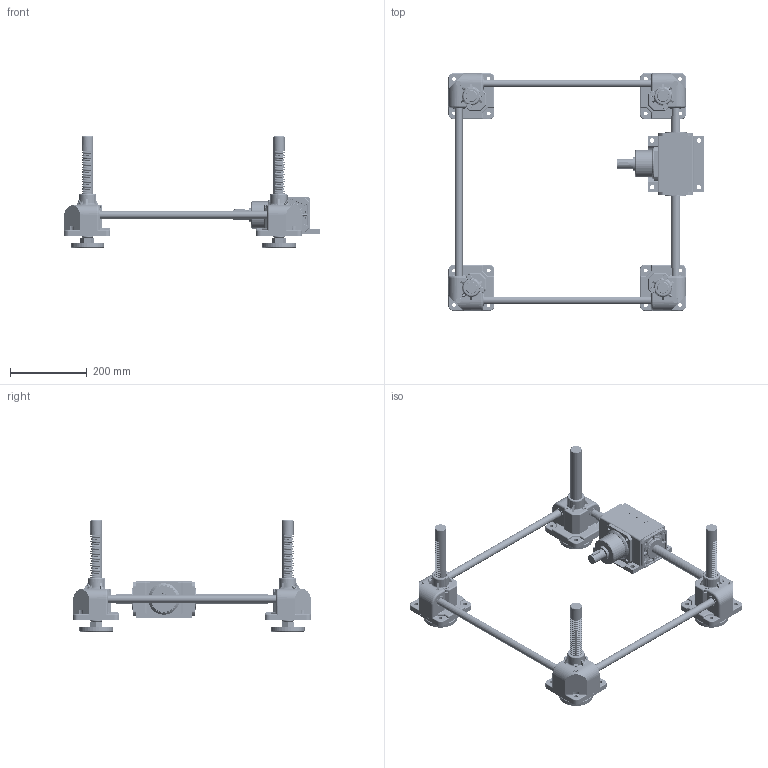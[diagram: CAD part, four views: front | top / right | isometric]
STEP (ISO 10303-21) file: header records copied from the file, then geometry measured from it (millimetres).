
FILE_DESCRIPTION(('STEP AP203'),'1');
FILE_NAME('SPB900FU-500x500-250-150ST.stp','2022-06-15T07:42:47',(' '),(' '),'Spatial InterOp 3D',' ',' ');
FILE_SCHEMA(('CONFIG_CONTROL_DESIGN'));
Length unit declared in the file: millimetre
Products named in the file (195): SPB900FU-500x500-250-150ST; ASSEM1; Flange.1-Part; Flange.1; Joint.1; Nut.1; Flange.2-Part; Flange.2; Joint.2; Nut.2; Flange.3-Part; Flange.3; Joint.3; Nut.3; Flange.4-Part; Flange.4; Joint.4; Nut.4; Body.1-Part; Bolt.12; Nipple; Gear Box.1(Upper); Body_stand by; Gear Box.1(Lower); RJ05-4SCJ-610X600-100ST_CAP; LABEL-B.1; ___; 파트18; __ ; Body.2-Part; Gear Box.2(Upper); Gear Box.2(Lower); Body.3-Part; Gear Box.3(Upper); Gear Box.3(Lower); Body.4-Part; Gear Box.4(Upper); Gear Box.4(Lower); Shaft; Shaft.1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
Assembly tree (195 placements, depth 6):
  SPB900FU-500x500-250-150ST
    ASSEM1
    (unnamed)
    (unnamed)
    (unnamed)
    Flange.1-Part
      Flange.1
      Joint.1
      Nut.1
    Flange.2-Part
      Flange.2
      Joint.2
      Nut.2
    Flange.3-Part
      Flange.3
      Joint.3
      Nut.3
    Flange.4-Part
      Flange.4
      Joint.4
      Nut.4
    Body.1-Part
      Bolt.12
      Bolt.12
      Bolt.12
      Nipple
      Gear Box.1(Upper)
        Body_stand by
        Body_stand by
        Body_stand by
        Body_stand by
      Gear Box.1(Lower)
        Body_stand by
        Body_stand by
        Body_stand by
        Body_stand by
      __ 
        ___
          RJ05-4SCJ-610X600-100ST_CAP
            LABEL-B.1
          파트18
    Body.2-Part
      Bolt.12
      Bolt.12
      Bolt.12
      Nipple
      Gear Box.2(Upper)
        Body_stand by
        Body_stand by
        Body_stand by
        Body_stand by
      Gear Box.2(Lower)
        Body_stand by
        Body_stand by
        Body_stand by
        Body_stand by
      __ 
        ___
          RJ05-4SCJ-610X600-100ST_CAP
            LABEL-B.1
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Bounding box: 666.41 x 620.32 x 290 mm (x, y, z)
Volume: 2752353.5 mm3; surface area: 1167969 mm2
Topology: 82 solids, 192 shells, 14256 faces, 40361 edges, 26238 vertices
Faces by surface type: plane 10337, cylinder 2381, bspline 664, torus 504, cone 188, sphere 116, extrusion 38, revolution 28
Full cylindrical faces by diameter (mm): 3.113 x4, 6 x4, 6.6 x4, 6.75 x12, 8 x12, 12 x20, 14 x12, 20 x5, 25 x9, 27 x4, 30 x4, 37 x4, 38 x4, 44 x4, 45 x4, 80 x1, 80.5 x3, 88 x4
Entity records: 515426 total; most frequent: CARTESIAN_POINT 145724, ORIENTED_EDGE 78074, DIRECTION 68365, EDGE_CURVE 39511, VECTOR 31171, LINE 31133, VERTEX_POINT 25965, AXIS2_PLACEMENT_3D 18583
